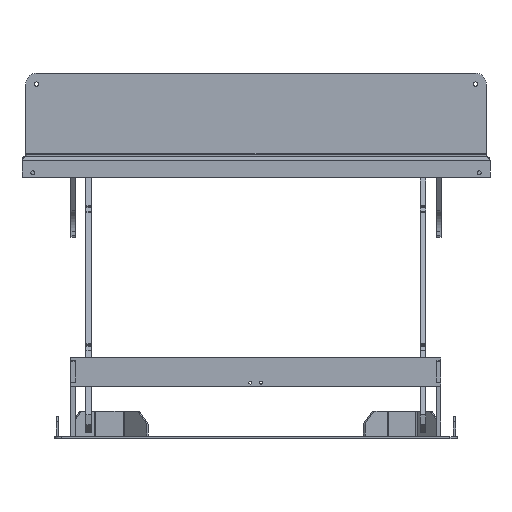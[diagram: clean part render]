
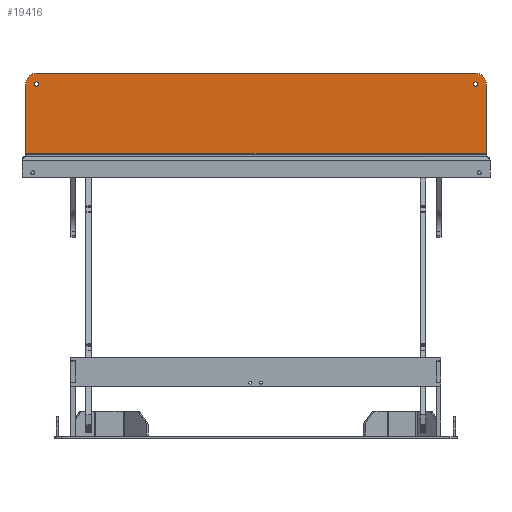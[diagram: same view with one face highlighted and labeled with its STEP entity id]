
A CAD part, left-side view. The second image highlights one B-rep face of the part: STEP entity #19416.
In plain terms, the highlighted planar face has unit normal (-1, 0, 0) as drawn and (0, 0, 1) by its records, which use the part's own axes.
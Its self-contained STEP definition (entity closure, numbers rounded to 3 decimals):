
#371=FACE_BOUND('',#2958,.T.);
#372=FACE_BOUND('',#2959,.T.);
#729=PLANE('',#21817);
#1735=FACE_OUTER_BOUND('',#2957,.T.);
#2957=EDGE_LOOP('',(#17762,#17763,#17764,#17765,#17766,#17767));
#2958=EDGE_LOOP('',(#17768));
#2959=EDGE_LOOP('',(#17769));
#4505=LINE('',#34054,#6063);
#4511=LINE('',#34070,#6069);
#4516=LINE('',#34087,#6074);
#4517=LINE('',#34089,#6075);
#6063=VECTOR('',#27922,10.);
#6069=VECTOR('',#27938,10.);
#6074=VECTOR('',#27963,10.);
#6075=VECTOR('',#27966,10.);
#7314=CIRCLE('',#21765,6.);
#7316=CIRCLE('',#21768,6.);
#7334=CIRCLE('',#21798,30.);
#7337=CIRCLE('',#21804,30.);
#9210=VERTEX_POINT('',#33970);
#9212=VERTEX_POINT('',#33975);
#9237=VERTEX_POINT('',#34041);
#9238=VERTEX_POINT('',#34042);
#9242=VERTEX_POINT('',#34052);
#9246=VERTEX_POINT('',#34064);
#9247=VERTEX_POINT('',#34068);
#9249=VERTEX_POINT('',#34082);
#12034=EDGE_CURVE('',#9210,#9210,#7314,.T.);
#12036=EDGE_CURVE('',#9212,#9212,#7316,.T.);
#12065=EDGE_CURVE('',#9237,#9238,#7334,.T.);
#12071=EDGE_CURVE('',#9242,#9237,#4505,.T.);
#12076=EDGE_CURVE('',#9246,#9242,#7337,.T.);
#12079=EDGE_CURVE('',#9247,#9246,#4511,.T.);
#12088=EDGE_CURVE('',#9247,#9249,#4516,.T.);
#12089=EDGE_CURVE('',#9238,#9249,#4517,.T.);
#17762=ORIENTED_EDGE('',*,*,#12065,.F.);
#17763=ORIENTED_EDGE('',*,*,#12071,.F.);
#17764=ORIENTED_EDGE('',*,*,#12076,.F.);
#17765=ORIENTED_EDGE('',*,*,#12079,.F.);
#17766=ORIENTED_EDGE('',*,*,#12088,.T.);
#17767=ORIENTED_EDGE('',*,*,#12089,.F.);
#17768=ORIENTED_EDGE('',*,*,#12034,.T.);
#17769=ORIENTED_EDGE('',*,*,#12036,.T.);
#19416=ADVANCED_FACE('',(#1735,#371,#372),#729,.T.);
#21765=AXIS2_PLACEMENT_3D('',#33971,#27835,#27836);
#21768=AXIS2_PLACEMENT_3D('',#33976,#27841,#27842);
#21798=AXIS2_PLACEMENT_3D('',#34043,#27912,#27913);
#21804=AXIS2_PLACEMENT_3D('',#34065,#27932,#27933);
#21817=AXIS2_PLACEMENT_3D('',#34090,#27967,#27968);
#27835=DIRECTION('center_axis',(0.,0.,-1.));
#27836=DIRECTION('ref_axis',(1.,0.,0.));
#27841=DIRECTION('center_axis',(0.,0.,-1.));
#27842=DIRECTION('ref_axis',(1.,0.,0.));
#27912=DIRECTION('center_axis',(0.,0.,-1.));
#27913=DIRECTION('ref_axis',(0.707,0.707,0.));
#27922=DIRECTION('',(1.,0.,0.));
#27932=DIRECTION('center_axis',(0.,0.,-1.));
#27933=DIRECTION('ref_axis',(-0.707,0.707,0.));
#27938=DIRECTION('',(0.,1.,0.));
#27963=DIRECTION('',(1.,0.,0.));
#27966=DIRECTION('',(0.,-1.,0.));
#27967=DIRECTION('center_axis',(0.,0.,1.));
#27968=DIRECTION('ref_axis',(1.,0.,0.));
#33970=CARTESIAN_POINT('',(616.,85.,4.));
#33971=CARTESIAN_POINT('Origin',(610.,85.,4.));
#33975=CARTESIAN_POINT('',(-604.,85.,4.));
#33976=CARTESIAN_POINT('Origin',(-610.,85.,4.));
#34041=CARTESIAN_POINT('',(610.,115.,4.));
#34042=CARTESIAN_POINT('',(640.,85.,4.));
#34043=CARTESIAN_POINT('Origin',(610.,85.,4.));
#34052=CARTESIAN_POINT('',(-610.,115.,4.));
#34054=CARTESIAN_POINT('',(640.,115.,4.));
#34064=CARTESIAN_POINT('',(-640.,85.,4.));
#34065=CARTESIAN_POINT('Origin',(-610.,85.,4.));
#34068=CARTESIAN_POINT('',(-640.,-107.,4.));
#34070=CARTESIAN_POINT('',(-640.,115.,4.));
#34082=CARTESIAN_POINT('',(640.,-107.,4.));
#34087=CARTESIAN_POINT('',(320.,-107.,4.));
#34089=CARTESIAN_POINT('',(640.,-115.,4.));
#34090=CARTESIAN_POINT('Origin',(0.,0.,
4.));
